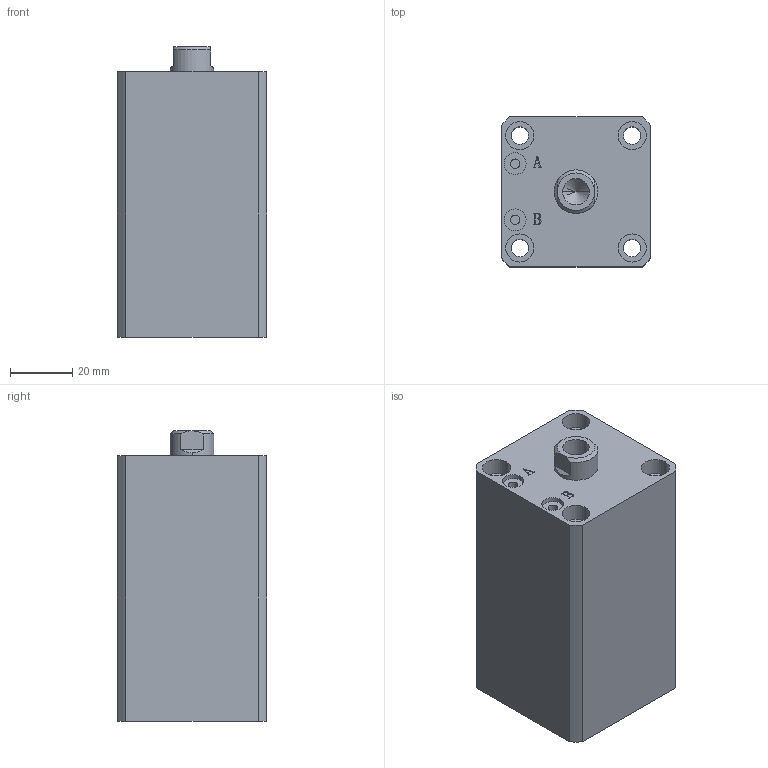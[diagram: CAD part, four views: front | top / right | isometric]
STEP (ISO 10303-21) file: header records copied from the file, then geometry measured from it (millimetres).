
FILE_DESCRIPTION (( 'STEP AP203' ), '1' );
FILE_NAME ('HTB-SDMA25-40N.STEP', '2019-10-07T10:53:25', ( '微软用户' ), ( '微软中国' ), 'SwSTEP 2.0', 'SolidWorks 2012', '' );
FILE_SCHEMA (( 'CONFIG_CONTROL_DESIGN' ));
Length unit declared in the file: millimetre
Products named in the file (3): HTB-SDMA25-40N; HTB-SDMA25-40N活塞杆; HTB-SDMA25-40掛极
Assembly tree (2 placements, depth 2):
  HTB-SDMA25-40N
    HTB-SDMA25-40掛极
    HTB-SDMA25-40N活塞杆
Bounding box: 48 x 48 x 93 mm (x, y, z)
Volume: 170784.3 mm3; surface area: 38525.2 mm2
Topology: 2 solids, 2 shells, 137 faces, 329 edges, 215 vertices
Faces by surface type: plane 65, cylinder 46, bspline 16, torus 6, cone 4
Entity records: 5072 total; most frequent: CARTESIAN_POINT 1592, ORIENTED_EDGE 654, DIRECTION 645, EDGE_CURVE 327, AXIS2_PLACEMENT_3D 232, VERTEX_POINT 215, LINE 181, VECTOR 181
